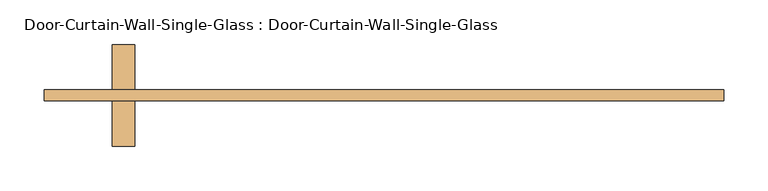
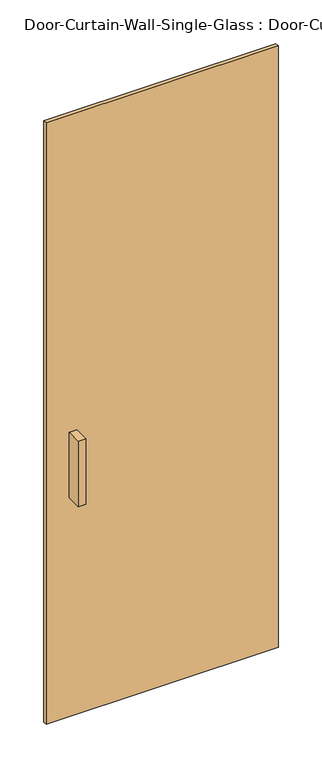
"""IFC4 building model written with IfcOpenShell, lengths in millimetres: door geometry, Door-Curtain-Wall-Single-Glass : Door-Curtain-Wall-Single-Glass."""

import ifcopenshell
import ifcopenshell.guid

model = None  # the IFC model being written
_history = None  # IfcOwnerHistory: only IFC2X3 demands one
_inside = {}  # id of a spatial element -> (the spatial element, [elements in it])
_under = {}  # id of a project, library or spatial element -> (it, [spatial elements below it])
_declared = {}  # id of a project -> (the project, [libraries it declares])
_typed = {}  # id of a type object -> (the type object, [elements of that type])
_made_of = {}  # id of a material, layer set ... -> (it, [elements and type objects made of it])


def new_model(schema):
    """Start an empty IFC model of exactly this schema.

    Asked for "IFC4X3", IfcOpenShell would pick the latest addendum, in which some entities
    have other attributes; the version numbers below select the first issue.
    IFC2X3 requires an IfcOwnerHistory on every rooted entity: one is made here for all.
    """
    global model, _history
    if schema == "IFC4X3":
        model = ifcopenshell.file(schema_version=(4, 3, 0, 0))
    else:
        model = ifcopenshell.file(schema=schema)
    _inside.clear()
    _under.clear()
    _declared.clear()
    _typed.clear()
    _made_of.clear()
    _history = None
    if model.schema == "IFC2X3":
        org = make("IfcOrganization", Name="unknown")
        user = make(
            "IfcPersonAndOrganization",
            ThePerson=make("IfcPerson", FamilyName="unknown"),
            TheOrganization=org,
        )
        app = make(
            "IfcApplication",
            ApplicationDeveloper=org,
            Version="unknown",
            ApplicationFullName="unknown",
            ApplicationIdentifier="unknown",
        )
        _history = make(
            "IfcOwnerHistory",
            OwningUser=user,
            OwningApplication=app,
            ChangeAction="ADDED",
            CreationDate=0,
        )
    return model


def make(cls, **values):
    """One entity of the class cls with the attributes given. An attribute that is None is left unset."""
    return model.create_entity(
        cls, **{name: value for name, value in values.items() if value is not None}
    )


def rooted(cls, **values):
    """An entity with a GlobalId (a new one), such as an element, a storey or a relation."""
    return make(cls, GlobalId=ifcopenshell.guid.new(), OwnerHistory=_history, **values)


def si_unit(unit_type, name, prefix=None):
    """IfcSIUnit, for example si_unit("LENGTHUNIT", "METRE", prefix="MILLI")."""
    return make("IfcSIUnit", UnitType=unit_type, Prefix=prefix, Name=name)


def assignment(units):
    """IfcUnitAssignment: the units of a project."""
    return None if units is None else make("IfcUnitAssignment", Units=units)


def point(xyz):
    """IfcCartesianPoint."""
    return None if xyz is None else make("IfcCartesianPoint", Coordinates=xyz)


def direction(xyz):
    """IfcDirection."""
    return None if xyz is None else make("IfcDirection", DirectionRatios=xyz)


def frame(location, z_axis=None, x_axis=None):
    """IfcAxis2Placement3D, a coordinate frame: its origin and axes. An axis left out is left unset."""
    return make(
        "IfcAxis2Placement3D",
        Location=point(location),
        Axis=direction(z_axis),
        RefDirection=direction(x_axis),
    )


def origin():
    """The frame at (0, 0, 0) with its axes left unset."""
    return frame((0.0, 0.0, 0.0))


def origin_with_axes():
    """The frame at (0, 0, 0) with the z axis (0, 0, 1) and the x axis (1, 0, 0) written out."""
    return frame((0.0, 0.0, 0.0), z_axis=(0.0, 0.0, 1.0), x_axis=(1.0, 0.0, 0.0))


def place(relative_to, where):
    """IfcLocalPlacement: puts the frame where relative to a parent placement (None: the world)."""
    return make(
        "IfcLocalPlacement", PlacementRelTo=relative_to, RelativePlacement=where
    )


def context(
    kind, dimensions, precision=None, world=None, true_north=None, identifier=None
):
    """IfcGeometricRepresentationContext, for example the 3D "Model" context."""
    return make(
        "IfcGeometricRepresentationContext",
        ContextIdentifier=identifier,
        ContextType=kind,
        CoordinateSpaceDimension=dimensions,
        Precision=precision,
        WorldCoordinateSystem=world,
        TrueNorth=true_north,
    )


def project(units=None, contexts=None):
    """IfcProject with its units and contexts."""
    return rooted(
        "IfcProject",
        Name="project",
        RepresentationContexts=contexts,
        UnitsInContext=assignment(units),
    )


def spatial(cls, under=None, at=None, **own):
    """A site, building, storey or space (cls), placed at a placement, below another one or the project."""
    s = rooted(cls, ObjectPlacement=at, **own)
    if under is not None:
        _under.setdefault(under.id(), (under, []))[1].append(s)
    return s


def polyline(points):
    """IfcPolyline through the points."""
    return make("IfcPolyline", Points=[point(p) for p in points])


def outline(outer, holes=None, kind="AREA"):
    """IfcArbitraryClosedProfileDef: a profile drawn as a closed curve; with holes, ...WithVoids."""
    if holes is None:
        return make("IfcArbitraryClosedProfileDef", ProfileType=kind, OuterCurve=outer)
    return make(
        "IfcArbitraryProfileDefWithVoids",
        ProfileType=kind,
        OuterCurve=outer,
        InnerCurves=holes,
    )


def extrude(swept, where, along, depth):
    """IfcExtrudedAreaSolid: the profile swept, set in the frame where, extruded along a direction by depth."""
    return make(
        "IfcExtrudedAreaSolid",
        SweptArea=swept,
        Position=where,
        ExtrudedDirection=direction(along),
        Depth=depth,
    )


def shape(context_of_items, identifier, shape_type, items):
    """IfcShapeRepresentation: the items that make up one representation, for example the "Body"."""
    return make(
        "IfcShapeRepresentation",
        ContextOfItems=context_of_items,
        RepresentationIdentifier=identifier,
        RepresentationType=shape_type,
        Items=items,
    )


def source(mapping_origin, context_of_items, identifier, shape_type, items):
    """IfcRepresentationMap: a shape defined once, which mapped items show again and again."""
    return make(
        "IfcRepresentationMap",
        MappingOrigin=mapping_origin,
        MappedRepresentation=shape(context_of_items, identifier, shape_type, items),
    )


def transform(
    local_origin,
    x_axis=None,
    y_axis=None,
    z_axis=None,
    scale=None,
    scale2=None,
    scale3=None,
    uniform=True,
):
    """IfcCartesianTransformationOperator3D, or its non-uniform kind. x_axis, y_axis, z_axis: its Axis1, 2, 3."""
    if uniform:
        return make(
            "IfcCartesianTransformationOperator3D",
            Axis1=direction(x_axis),
            Axis2=direction(y_axis),
            LocalOrigin=point(local_origin),
            Scale=scale,
            Axis3=direction(z_axis),
        )
    return make(
        "IfcCartesianTransformationOperator3DnonUniform",
        Axis1=direction(x_axis),
        Axis2=direction(y_axis),
        LocalOrigin=point(local_origin),
        Scale=scale,
        Axis3=direction(z_axis),
        Scale2=scale2,
        Scale3=scale3,
    )


def mapped(mapping_source, mapping_target):
    """IfcMappedItem: shows the shape of a source again, moved by a transform."""
    return make(
        "IfcMappedItem", MappingSource=mapping_source, MappingTarget=mapping_target
    )


def made_of(thing, what):
    """Note that an element or type object is made of a material, layer set ...; save() writes the relation."""
    if what is not None:
        _made_of.setdefault(what.id(), (what, []))[1].append(thing)
    return thing


def element(
    cls,
    number,
    at=None,
    inside=None,
    cuts=None,
    type_object=None,
    material=None,
    context=None,
    identifier="Body",
    shape_type=None,
    held_by="IfcProductDefinitionShape",
    body=None,
    shapes=None,
    **own,
):
    """One element of the class cls, such as IfcWall. Its Tag is "e" and its number.

    at: its placement. inside: the storey or other place that contains it. cuts: it is an
    opening in that element (IfcRelVoidsElement). A single representation is given by context,
    identifier, shape_type and body (its items); several are given by shapes. held_by: the class
    of the entity that holds the representations. save() writes the other relations.
    """
    e = rooted(cls, Tag="e%d" % number, ObjectPlacement=at, **own)
    if body is not None:
        shapes = [shape(context, identifier, shape_type, body)]
    if shapes is not None:
        e.Representation = make(held_by, Representations=shapes)
    if inside is not None:
        _inside.setdefault(inside.id(), (inside, []))[1].append(e)
    if cuts is not None:
        rooted(
            "IfcRelVoidsElement", RelatingBuildingElement=cuts, RelatedOpeningElement=e
        )
    if type_object is not None:
        _typed.setdefault(type_object.id(), (type_object, []))[1].append(e)
    return made_of(e, material)


def aggregate(whole, parts):
    """IfcRelAggregates: a whole, such as a stair, and the parts it consists of."""
    return rooted("IfcRelAggregates", RelatingObject=whole, RelatedObjects=parts)


def save(model, path):
    """Write the relations noted so far, then the file.

    IfcRelAggregates (storeys below a building ...), IfcRelContainedInSpatialStructure (elements
    in a storey), IfcRelDefinesByType, IfcRelAssociatesMaterial and IfcRelDeclares: one each for
    every whole, place, type object, material and project.
    """
    for whole, parts in _under.values():
        aggregate(whole, parts)
    for where, things in _inside.values():
        rooted(
            "IfcRelContainedInSpatialStructure",
            RelatedElements=things,
            RelatingStructure=where,
        )
    for kind, things in _typed.values():
        rooted("IfcRelDefinesByType", RelatedObjects=things, RelatingType=kind)
    for what, things in _made_of.values():
        rooted("IfcRelAssociatesMaterial", RelatedObjects=things, RelatingMaterial=what)
    for by, libraries in _declared.values():
        rooted("IfcRelDeclares", RelatingContext=by, RelatedDefinitions=libraries)
    model.write(path)


def door_curtain_wall_single_glass_door_curtain_wall_single_e3b46ede(model_context):
    return source(origin(), model_context, "Body", "SweptSolid", [
        extrude(outline(polyline([(382.3136177, 0.0), (-382.3136177, 0.0), (-382.3136177, 12.7), (382.3136177, 12.7), (382.3136177, 0.0)])), origin_with_axes(), (0.0, 0.0, 1.0), 2095.5),
        extrude(outline(polyline([(-280.7136177, 63.5), (-280.7136177, 12.7), (-306.1136177, 12.7), (-306.1136177, 63.5), (-280.7136177, 63.5)])), frame((0.0, 0.0, 762.0), z_axis=(0.0, 0.0, 1.0), x_axis=(1.0, 0.0, 0.0)), (0.0, 0.0, 1.0), 228.6),
        extrude(outline(polyline([(-306.1136177, -50.8), (-306.1136177, 0.0), (-280.7136177, 0.0), (-280.7136177, -50.8), (-306.1136177, -50.8)])), frame((0.0, 0.0, 762.0), z_axis=(0.0, 0.0, 1.0), x_axis=(1.0, 0.0, 0.0)), (0.0, 0.0, 1.0), 228.6),
    ])


if __name__ == "__main__":
    model = new_model("IFC4")
    model_context = context("Model", 3, world=origin())
    ifc_project = project(units=[si_unit("LENGTHUNIT", "METRE", prefix="MILLI")], contexts=[model_context])
    site = spatial("IfcSite", under=ifc_project)
    building = spatial("IfcBuilding", under=site)
    placement = place(None, origin())
    door_curtain_wall_single_glass_door_curtain_wall_single_shape = door_curtain_wall_single_glass_door_curtain_wall_single_e3b46ede(model_context)
    element("IfcDoor", 1, ObjectType="Door-Curtain-Wall-Single-Glass : Door-Curtain-Wall-Single-Glass", at=placement, inside=building, context=model_context, shape_type="MappedRepresentation", body=[
        mapped(door_curtain_wall_single_glass_door_curtain_wall_single_shape, transform((0.0, 0.0, 0.0), x_axis=(1.0, 0.0, 0.0), y_axis=(0.0, 1.0, 0.0), z_axis=(0.0, 0.0, 1.0))),
    ])
    save(model, "model.ifc")
